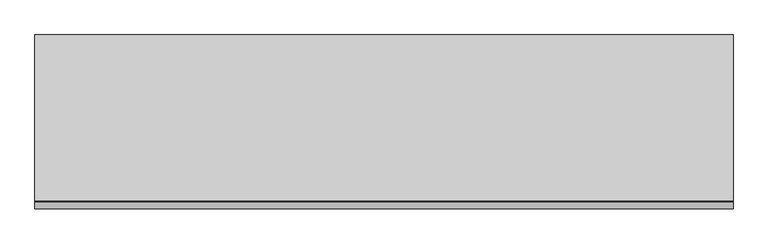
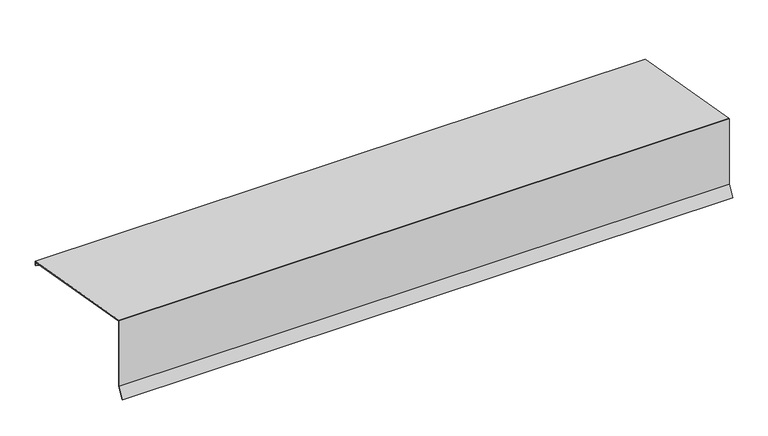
"""IFC4 building model written with IfcOpenShell, lengths in millimetres: proxy geometry, H20.F20.003-F-REMATES TEJA-Troquelado Sobre Pared : Troquelado sobre Pared Teja."""

from ifc_helpers import new_model, si_unit, point, frame, origin, place, context, project, spatial, ellipse_curve, trimmed, source, transform, mapped, element, save
from ifc_brep_helpers import plane_surface, extruded_surface, advanced_brep


def generic_models_d8b17708(model_context):
    return source(origin(), model_context, "Body", "AdvancedBrep", [
        advanced_brep(
        [(98.0, 0.0, 0.0), (1100.0, 0.0, 0.0), (1100.0, 238.19086, -41.9994752), (98.0, 238.19086, -41.9994752), (154.6321739, 238.1879411, -87.8229652), (147.7180237, 238.1881905, -83.9076084), (98.0, 238.1904216, -48.8823218), (1100.0, 238.190394, -49.3151787), (1018.9019763, 238.1881905, -83.9076084), (1011.9878261, 238.1879411, -87.8229652), (987.9321739, 238.1879411, -87.8229652), (981.0180237, 238.1881905, -83.9076084), (852.2419763, 238.1881905, -83.9076084), (845.3278261, 238.1879411, -87.8229652), (821.2721739, 238.1879411, -87.8229652), (814.3580237, 238.1881905, -83.9076084), (685.5819763, 238.1881905, -83.9076084), (678.6678261, 238.1879411, -87.8229652), (654.6121739, 238.1879411, -87.8229652), (647.6980237, 238.1881905, -83.9076084), (518.9219763, 238.1881905, -83.9076084), (512.0078261, 238.1879411, -87.8229652), (487.9521739, 238.1879411, -87.8229652), (481.0380237, 238.1881905, -83.9076084), (352.2619763, 238.1881905, -83.9076084), (345.3478261, 238.1879411, -87.8229652), (321.2921739, 238.1879411, -87.8229652), (314.3780237, 238.1881905, -83.9076084), (185.6019763, 238.1881905, -83.9076084), (178.6878261, 238.1879411, -87.8229652), (178.6878261, 236.5879411, -87.8228633), (154.6321739, 236.5879411, -87.8228633), (345.3478261, 236.5879411, -87.8228633), (321.2921739, 236.5879411, -87.8228633), (512.0078261, 236.5879411, -87.8228633), (487.9521739, 236.5879411, -87.8228633), (678.6678261, 236.5879411, -87.8228633), (654.6121739, 236.5879411, -87.8228633), (845.3278261, 236.5879411, -87.8228633), (821.2721739, 236.5879411, -87.8228633), (1011.9878261, 236.5879411, -87.8228633), (987.9321739, 236.5879411, -87.8228633), (185.6019763, 236.5881905, -83.9075064), (314.3780237, 236.5881905, -83.9075064), (352.2619763, 236.5881905, -83.9075064), (481.0380237, 236.5881905, -83.9075064), (518.9219763, 236.5881905, -83.9075064), (647.6980237, 236.5881905, -83.9075064), (685.5819763, 236.5881905, -83.9075064), (814.3580237, 236.5881905, -83.9075064), (852.2419763, 236.5881905, -83.9075064), (981.0180237, 236.5881905, -83.9075064), (1018.9019763, 236.5881905, -83.9075064), (1100.0, 236.590394, -49.3150768), (1100.0, 236.5907745, -43.3420195), (98.0, 236.5907745, -43.3420195), (98.0, 236.5904216, -48.8822199), (147.7180237, 236.5881905, -83.9075064), (1100.0, 0.101317, -1.6425475), (98.0, 0.101317, -1.6425475), (1100.0, 0.101317, -114.7969819), (98.0, 0.101317, -114.7969819), (1100.0, -9.954634, -132.0850659), (98.0, -9.954634, -132.0850659), (1100.0, -11.6062164, -131.1243909), (98.0, -11.6062164, -131.1243909), (1100.0, -1.5576942, -113.8490784), (98.0, -1.5576942, -113.8490784), (1100.0, -1.5576942, 0.0), (98.0, -1.5576942, 0.0)],
        [
            (0, 1),
            (1, 2),
            (2, 3),
            (3, 0),
            (4, 5, ellipse_curve(frame((154.6321739, 238.1884429, -79.9445032), z_axis=(0.0, 0.9999999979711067, -6.37007579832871e-05), x_axis=(1.0, 0.0, 0.0)), 8.0, 7.878462)),
            (5, 6, ellipse_curve(frame((83.33, 238.1858395, -120.8140249), z_axis=(0.0, -0.9999999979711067, 6.37007579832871e-05), x_axis=(1.0, 0.0, 0.0)), 74.5, 73.3681776)),
            (6, 3),
            (2, 7),
            (7, 8, ellipse_curve(frame((1083.29, 238.1858395, -120.8140249), z_axis=(0.0, -0.9999999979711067, 6.37007579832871e-05), x_axis=(1.0, 0.0, 0.0)), 74.5, 73.3681776)),
            (8, 9, ellipse_curve(frame((1011.9878261, 238.1884429, -79.9445032), z_axis=(0.0, 0.9999999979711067, -6.37007579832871e-05), x_axis=(1.0, 0.0, 0.0)), 8.0, 7.878462)),
            (9, 10),
            (10, 11, ellipse_curve(frame((987.9321739, 238.1884429, -79.9445032), z_axis=(0.0, 0.9999999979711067, -6.37007579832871e-05), x_axis=(1.0, 0.0, 0.0)), 8.0, 7.878462)),
            (11, 12, ellipse_curve(frame((916.63, 238.1858395, -120.8140249), z_axis=(0.0, -0.9999999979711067, 6.37007579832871e-05), x_axis=(1.0, 0.0, 0.0)), 74.5, 73.3681776)),
            (12, 13, ellipse_curve(frame((845.3278261, 238.1884429, -79.9445032), z_axis=(0.0, 0.9999999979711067, -6.37007579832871e-05), x_axis=(1.0, 0.0, 0.0)), 8.0, 7.878462)),
            (13, 14),
            (14, 15, ellipse_curve(frame((821.2721739, 238.1884429, -79.9445032), z_axis=(0.0, 0.9999999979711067, -6.37007579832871e-05), x_axis=(1.0, 0.0, 0.0)), 8.0, 7.878462)),
            (15, 16, ellipse_curve(frame((749.97, 238.1858395, -120.8140249), z_axis=(0.0, -0.9999999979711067, 6.37007579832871e-05), x_axis=(1.0, 0.0, 0.0)), 74.5, 73.3681776)),
            (16, 17, ellipse_curve(frame((678.6678261, 238.1884429, -79.9445032), z_axis=(0.0, 0.9999999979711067, -6.37007579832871e-05), x_axis=(1.0, 0.0, 0.0)), 8.0, 7.878462)),
            (17, 18),
            (18, 19, ellipse_curve(frame((654.6121739, 238.1884429, -79.9445032), z_axis=(0.0, 0.9999999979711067, -6.37007579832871e-05), x_axis=(1.0, 0.0, 0.0)), 8.0, 7.878462)),
            (19, 20, ellipse_curve(frame((583.31, 238.1858395, -120.8140249), z_axis=(0.0, -0.9999999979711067, 6.37007579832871e-05), x_axis=(1.0, 0.0, 0.0)), 74.5, 73.3681776)),
            (20, 21, ellipse_curve(frame((512.0078261, 238.1884429, -79.9445032), z_axis=(0.0, 0.9999999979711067, -6.37007579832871e-05), x_axis=(1.0, 0.0, 0.0)), 8.0, 7.878462)),
            (21, 22),
            (22, 23, ellipse_curve(frame((487.9521739, 238.1884429, -79.9445032), z_axis=(0.0, 0.9999999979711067, -6.37007579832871e-05), x_axis=(1.0, 0.0, 0.0)), 8.0, 7.878462)),
            (23, 24, ellipse_curve(frame((416.65, 238.1858395, -120.8140249), z_axis=(0.0, -0.9999999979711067, 6.37007579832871e-05), x_axis=(1.0, 0.0, 0.0)), 74.5, 73.3681776)),
            (24, 25, ellipse_curve(frame((345.3478261, 238.1884429, -79.9445032), z_axis=(0.0, 0.9999999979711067, -6.37007579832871e-05), x_axis=(1.0, 0.0, 0.0)), 8.0, 7.878462)),
            (25, 26),
            (26, 27, ellipse_curve(frame((321.2921739, 238.1884429, -79.9445032), z_axis=(0.0, 0.9999999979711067, -6.37007579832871e-05), x_axis=(1.0, 0.0, 0.0)), 8.0, 7.878462)),
            (27, 28, ellipse_curve(frame((249.99, 238.1858395, -120.8140249), z_axis=(0.0, -0.9999999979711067, 6.37007579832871e-05), x_axis=(1.0, 0.0, 0.0)), 74.5, 73.3681776)),
            (28, 29, ellipse_curve(frame((178.6878261, 238.1884429, -79.9445032), z_axis=(0.0, 0.9999999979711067, -6.37007579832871e-05), x_axis=(1.0, 0.0, 0.0)), 8.0, 7.878462)),
            (29, 4),
            (29, 30),
            (30, 31),
            (31, 4),
            (25, 32),
            (32, 33),
            (33, 26),
            (21, 34),
            (34, 35),
            (35, 22),
            (17, 36),
            (36, 37),
            (37, 18),
            (13, 38),
            (38, 39),
            (39, 14),
            (9, 40),
            (40, 41),
            (41, 10),
            (30, 42, ellipse_curve(frame((178.6878261, 236.5884429, -79.9444013), z_axis=(0.0, -0.9999999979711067, 6.37007579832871e-05), x_axis=(1.0, 0.0, 0.0)), 8.0, 7.878462)),
            (42, 43, ellipse_curve(frame((249.99, 236.5858395, -120.813923), z_axis=(0.0, 0.9999999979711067, -6.37007579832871e-05), x_axis=(1.0, 0.0, 0.0)), 74.5, 73.3681776)),
            (43, 33, ellipse_curve(frame((321.2921739, 236.5884429, -79.9444013), z_axis=(0.0, -0.9999999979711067, 6.37007579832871e-05), x_axis=(1.0, 0.0, 0.0)), 8.0, 7.878462)),
            (32, 44, ellipse_curve(frame((345.3478261, 236.5884429, -79.9444013), z_axis=(0.0, -0.9999999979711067, 6.37007579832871e-05), x_axis=(1.0, 0.0, 0.0)), 8.0, 7.878462)),
            (44, 45, ellipse_curve(frame((416.65, 236.5858395, -120.813923), z_axis=(0.0, 0.9999999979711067, -6.37007579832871e-05), x_axis=(1.0, 0.0, 0.0)), 74.5, 73.3681776)),
            (45, 35, ellipse_curve(frame((487.9521739, 236.5884429, -79.9444013), z_axis=(0.0, -0.9999999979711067, 6.37007579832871e-05), x_axis=(1.0, 0.0, 0.0)), 8.0, 7.878462)),
            (34, 46, ellipse_curve(frame((512.0078261, 236.5884429, -79.9444013), z_axis=(0.0, -0.9999999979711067, 6.37007579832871e-05), x_axis=(1.0, 0.0, 0.0)), 8.0, 7.878462)),
            (46, 47, ellipse_curve(frame((583.31, 236.5858395, -120.813923), z_axis=(0.0, 0.9999999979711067, -6.37007579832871e-05), x_axis=(1.0, 0.0, 0.0)), 74.5, 73.3681776)),
            (47, 37, ellipse_curve(frame((654.6121739, 236.5884429, -79.9444013), z_axis=(0.0, -0.9999999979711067, 6.37007579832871e-05), x_axis=(1.0, 0.0, 0.0)), 8.0, 7.878462)),
            (36, 48, ellipse_curve(frame((678.6678261, 236.5884429, -79.9444013), z_axis=(0.0, -0.9999999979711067, 6.37007579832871e-05), x_axis=(1.0, 0.0, 0.0)), 8.0, 7.878462)),
            (48, 49, ellipse_curve(frame((749.97, 236.5858395, -120.813923), z_axis=(0.0, 0.9999999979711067, -6.37007579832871e-05), x_axis=(1.0, 0.0, 0.0)), 74.5, 73.3681776)),
            (49, 39, ellipse_curve(frame((821.2721739, 236.5884429, -79.9444013), z_axis=(0.0, -0.9999999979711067, 6.37007579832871e-05), x_axis=(1.0, 0.0, 0.0)), 8.0, 7.878462)),
            (38, 50, ellipse_curve(frame((845.3278261, 236.5884429, -79.9444013), z_axis=(0.0, -0.9999999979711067, 6.37007579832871e-05), x_axis=(1.0, 0.0, 0.0)), 8.0, 7.878462)),
            (50, 51, ellipse_curve(frame((916.63, 236.5858395, -120.813923), z_axis=(0.0, 0.9999999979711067, -6.37007579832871e-05), x_axis=(1.0, 0.0, 0.0)), 74.5, 73.3681776)),
            (51, 41, ellipse_curve(frame((987.9321739, 236.5884429, -79.9444013), z_axis=(0.0, -0.9999999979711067, 6.37007579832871e-05), x_axis=(1.0, 0.0, 0.0)), 8.0, 7.878462)),
            (40, 52, ellipse_curve(frame((1011.9878261, 236.5884429, -79.9444013), z_axis=(0.0, -0.9999999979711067, 6.37007579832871e-05), x_axis=(1.0, 0.0, 0.0)), 8.0, 7.878462)),
            (52, 53, ellipse_curve(frame((1083.29, 236.5858395, -120.813923), z_axis=(0.0, 0.9999999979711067, -6.37007579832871e-05), x_axis=(1.0, 0.0, 0.0)), 74.5, 73.3681776)),
            (53, 54),
            (54, 55),
            (55, 56),
            (56, 57, ellipse_curve(frame((83.33, 236.5858395, -120.813923), z_axis=(0.0, 0.9999999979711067, -6.37007579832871e-05), x_axis=(1.0, 0.0, 0.0)), 74.5, 73.3681776)),
            (57, 31, ellipse_curve(frame((154.6321739, 236.5884429, -79.9444013), z_axis=(0.0, -0.9999999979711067, 6.37007579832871e-05), x_axis=(1.0, 0.0, 0.0)), 8.0, 7.878462)),
            (56, 6),
            (5, 57),
            (28, 42),
            (27, 43),
            (24, 44),
            (23, 45),
            (20, 46),
            (19, 47),
            (16, 48),
            (15, 49),
            (12, 50),
            (11, 51),
            (8, 52),
            (7, 53),
            (54, 58),
            (58, 59),
            (59, 55),
            (58, 60),
            (60, 61),
            (61, 59),
            (60, 62),
            (62, 63),
            (63, 61),
            (62, 64),
            (64, 65),
            (65, 63),
            (64, 66),
            (66, 67),
            (67, 65),
            (66, 68),
            (68, 69),
            (69, 67),
            (68, 1),
            (0, 69),
        ],
        [
            plane_surface(frame((2500.0, 0.0, 0.0), z_axis=(0.0, 0.17364817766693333, 0.9848077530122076), x_axis=(-1.0, 0.0, 0.0))),
            plane_surface(frame((2500.0, 238.19086, -41.9994752), z_axis=(0.0, 0.9999999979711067, -6.37007579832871e-05), x_axis=(-1.0, 0.0, 0.0))),
            plane_surface(frame((2500.0, 238.1879411, -87.8229652), z_axis=(0.0, -6.370075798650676e-05, -0.9999999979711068), x_axis=(-1.0, 0.0, 0.0))),
            plane_surface(frame((2500.0, 236.5879411, -87.8228633), z_axis=(0.0, -0.9999999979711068, 6.370075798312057e-05), x_axis=(-1.0, 0.0, 0.0))),
            extruded_surface(trimmed(ellipse_curve(frame((83.33, 240.1858395, -120.8141523), z_axis=(0.0, 0.9999999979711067, -6.37007579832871e-05), x_axis=(1.0, 0.0, 0.0)), 74.5, 73.3681776), [point((18.9419763, 240.1881905, -83.9077358))], [point((147.7180237, 240.1881905, -83.9077358))], True, "CARTESIAN"), (0.0, -2.0, 0.00012739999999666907), 2.0000000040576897),
            extruded_surface(trimmed(ellipse_curve(frame((154.6321739, 240.1884429, -79.9446306), z_axis=(0.0, -0.9999999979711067, 6.37007579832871e-05), x_axis=(1.0, 0.0, 0.0)), 8.0, 7.878462), [point((147.7180237, 240.1881905, -83.9077358))], [point((154.6321739, 240.1879411, -87.8230926))], True, "CARTESIAN"), (0.0, -2.0, 0.00012739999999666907), 2.0000000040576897),
            extruded_surface(trimmed(ellipse_curve(frame((178.6878261, 240.1884429, -79.9446306), z_axis=(0.0, -0.9999999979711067, 6.37007579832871e-05), x_axis=(1.0, 0.0, 0.0)), 8.0, 7.878462), [point((178.6878261, 240.1879411, -87.8230926))], [point((185.6019763, 240.1881905, -83.9077358))], True, "CARTESIAN"), (0.0, -2.0, 0.00012739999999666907), 2.0000000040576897),
            extruded_surface(trimmed(ellipse_curve(frame((249.99, 240.1858395, -120.8141523), z_axis=(0.0, 0.9999999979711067, -6.37007579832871e-05), x_axis=(1.0, 0.0, 0.0)), 74.5, 73.3681776), [point((185.6019763, 240.1881905, -83.9077358))], [point((314.3780237, 240.1881905, -83.9077358))], True, "CARTESIAN"), (0.0, -2.0, 0.00012739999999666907), 2.0000000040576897),
            extruded_surface(trimmed(ellipse_curve(frame((321.2921739, 240.1884429, -79.9446306), z_axis=(0.0, -0.9999999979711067, 6.37007579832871e-05), x_axis=(1.0, 0.0, 0.0)), 8.0, 7.878462), [point((314.3780237, 240.1881905, -83.9077358))], [point((321.2921739, 240.1879411, -87.8230926))], True, "CARTESIAN"), (0.0, -2.0, 0.00012739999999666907), 2.0000000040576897),
            extruded_surface(trimmed(ellipse_curve(frame((345.3478261, 240.1884429, -79.9446306), z_axis=(0.0, -0.9999999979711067, 6.37007579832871e-05), x_axis=(1.0, 0.0, 0.0)), 8.0, 7.878462), [point((345.3478261, 240.1879411, -87.8230926))], [point((352.2619763, 240.1881905, -83.9077358))], True, "CARTESIAN"), (0.0, -2.0, 0.00012739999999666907), 2.0000000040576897),
            extruded_surface(trimmed(ellipse_curve(frame((416.65, 240.1858395, -120.8141523), z_axis=(0.0, 0.9999999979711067, -6.37007579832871e-05), x_axis=(1.0, 0.0, 0.0)), 74.5, 73.3681776), [point((352.2619763, 240.1881905, -83.9077358))], [point((481.0380237, 240.1881905, -83.9077358))], True, "CARTESIAN"), (0.0, -2.0, 0.00012739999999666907), 2.0000000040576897),
            extruded_surface(trimmed(ellipse_curve(frame((487.9521739, 240.1884429, -79.9446306), z_axis=(0.0, -0.9999999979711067, 6.37007579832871e-05), x_axis=(1.0, 0.0, 0.0)), 8.0, 7.878462), [point((481.0380237, 240.1881905, -83.9077358))], [point((487.9521739, 240.1879411, -87.8230926))], True, "CARTESIAN"), (0.0, -2.0, 0.00012739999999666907), 2.0000000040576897),
            extruded_surface(trimmed(ellipse_curve(frame((512.0078261, 240.1884429, -79.9446306), z_axis=(0.0, -0.9999999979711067, 6.37007579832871e-05), x_axis=(1.0, 0.0, 0.0)), 8.0, 7.878462), [point((512.0078261, 240.1879411, -87.8230926))], [point((518.9219763, 240.1881905, -83.9077358))], True, "CARTESIAN"), (0.0, -2.0, 0.00012739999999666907), 2.0000000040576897),
            extruded_surface(trimmed(ellipse_curve(frame((583.31, 240.1858395, -120.8141523), z_axis=(0.0, 0.9999999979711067, -6.37007579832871e-05), x_axis=(1.0, 0.0, 0.0)), 74.5, 73.3681776), [point((518.9219763, 240.1881905, -83.9077358))], [point((647.6980237, 240.1881905, -83.9077358))], True, "CARTESIAN"), (0.0, -2.0, 0.00012739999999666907), 2.0000000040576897),
            extruded_surface(trimmed(ellipse_curve(frame((654.6121739, 240.1884429, -79.9446306), z_axis=(0.0, -0.9999999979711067, 6.37007579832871e-05), x_axis=(1.0, 0.0, 0.0)), 8.0, 7.878462), [point((647.6980237, 240.1881905, -83.9077358))], [point((654.6121739, 240.1879411, -87.8230926))], True, "CARTESIAN"), (0.0, -2.0, 0.00012739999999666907), 2.0000000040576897),
            extruded_surface(trimmed(ellipse_curve(frame((678.6678261, 240.1884429, -79.9446306), z_axis=(0.0, -0.9999999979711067, 6.37007579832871e-05), x_axis=(1.0, 0.0, 0.0)), 8.0, 7.878462), [point((678.6678261, 240.1879411, -87.8230926))], [point((685.5819763, 240.1881905, -83.9077358))], True, "CARTESIAN"), (0.0, -2.0, 0.00012739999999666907), 2.0000000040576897),
            extruded_surface(trimmed(ellipse_curve(frame((749.97, 240.1858395, -120.8141523), z_axis=(0.0, 0.9999999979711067, -6.37007579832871e-05), x_axis=(1.0, 0.0, 0.0)), 74.5, 73.3681776), [point((685.5819763, 240.1881905, -83.9077358))], [point((814.3580237, 240.1881905, -83.9077358))], True, "CARTESIAN"), (0.0, -2.0, 0.00012739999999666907), 2.0000000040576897),
            extruded_surface(trimmed(ellipse_curve(frame((821.2721739, 240.1884429, -79.9446306), z_axis=(0.0, -0.9999999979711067, 6.37007579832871e-05), x_axis=(1.0, 0.0, 0.0)), 8.0, 7.878462), [point((814.3580237, 240.1881905, -83.9077358))], [point((821.2721739, 240.1879411, -87.8230926))], True, "CARTESIAN"), (0.0, -2.0, 0.00012739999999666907), 2.0000000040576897),
            extruded_surface(trimmed(ellipse_curve(frame((845.3278261, 240.1884429, -79.9446306), z_axis=(0.0, -0.9999999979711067, 6.37007579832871e-05), x_axis=(1.0, 0.0, 0.0)), 8.0, 7.878462), [point((845.3278261, 240.1879411, -87.8230926))], [point((852.2419763, 240.1881905, -83.9077358))], True, "CARTESIAN"), (0.0, -2.0, 0.00012739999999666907), 2.0000000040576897),
            extruded_surface(trimmed(ellipse_curve(frame((916.63, 240.1858395, -120.8141523), z_axis=(0.0, 0.9999999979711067, -6.37007579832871e-05), x_axis=(1.0, 0.0, 0.0)), 74.5, 73.3681776), [point((852.2419763, 240.1881905, -83.9077358))], [point((981.0180237, 240.1881905, -83.9077358))], True, "CARTESIAN"), (0.0, -2.0, 0.00012739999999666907), 2.0000000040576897),
            extruded_surface(trimmed(ellipse_curve(frame((987.9321739, 240.1884429, -79.9446306), z_axis=(0.0, -0.9999999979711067, 6.37007579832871e-05), x_axis=(1.0, 0.0, 0.0)), 8.0, 7.878462), [point((981.0180237, 240.1881905, -83.9077358))], [point((987.9321739, 240.1879411, -87.8230926))], True, "CARTESIAN"), (0.0, -2.0, 0.00012739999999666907), 2.0000000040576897),
            extruded_surface(trimmed(ellipse_curve(frame((1011.9878261, 240.1884429, -79.9446306), z_axis=(0.0, -0.9999999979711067, 6.37007579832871e-05), x_axis=(1.0, 0.0, 0.0)), 8.0, 7.878462), [point((1011.9878261, 240.1879411, -87.8230926))], [point((1018.9019763, 240.1881905, -83.9077358))], True, "CARTESIAN"), (0.0, -2.0, 0.00012739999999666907), 2.0000000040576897),
            extruded_surface(trimmed(ellipse_curve(frame((1083.29, 240.1858395, -120.8141523), z_axis=(0.0, 0.9999999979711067, -6.37007579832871e-05), x_axis=(1.0, 0.0, 0.0)), 74.5, 73.3681776), [point((1018.9019763, 240.1881905, -83.9077358))], [point((1147.6780237, 240.1881905, -83.9077358))], True, "CARTESIAN"), (0.0, -2.0, 0.00012739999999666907), 2.0000000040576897),
            plane_surface(frame((2500.0, 236.5907745, -43.3420195), z_axis=(0.0, -0.17364817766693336, -0.9848077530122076), x_axis=(-1.0, 0.0, 0.0))),
            plane_surface(frame((2500.0, 0.101317, -1.6425475), z_axis=(0.0, 1.0, 0.0), x_axis=(-1.0, 0.0, 0.0))),
            plane_surface(frame((2500.0, 0.101317, -114.7969819), z_axis=(0.0, 0.8644042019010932, -0.5027975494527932), x_axis=(-1.0, 0.0, 0.0))),
            plane_surface(frame((2500.0, -9.954634, -132.0850659), z_axis=(0.0, -0.50279754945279, -0.8644042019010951), x_axis=(-1.0, 0.0, 0.0))),
            plane_surface(frame((2500.0, -11.6062164, -131.1243909), z_axis=(0.0, -0.8644042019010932, 0.5027975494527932), x_axis=(-1.0, 0.0, 0.0))),
            plane_surface(frame((2500.0, -1.5576942, -113.8490784), z_axis=(0.0, -1.0, 0.0), x_axis=(-1.0, 0.0, 0.0))),
            plane_surface(frame((2500.0, -1.5576942, 0.0), z_axis=(0.0, 0.0, 1.0), x_axis=(-1.0, 0.0, 0.0))),
            plane_surface(frame((98.0, 379.1513497, 250.0), z_axis=(-1.0, 0.0, 0.0), x_axis=(0.0, 0.0, -1.0))),
            plane_surface(frame((1100.0, -196.3809555, 250.0), z_axis=(1.0, 0.0, 0.0), x_axis=(0.0, 0.0, -1.0))),
        ],
        [
            (0, [[1, 2, 3, 4]]),
            (1, [[5, 6, 7, -3, 8, 9, 10, 11, 12, 13, 14, 15, 16, 17, 18, 19, 20, 21, 22, 23, 24, 25, 26, 27, 28, 29, 30, 31]]),
            (2, [[32, 33, 34, -31]]),
            (2, [[35, 36, 37, -27]]),
            (2, [[38, 39, 40, -23]]),
            (2, [[41, 42, 43, -19]]),
            (2, [[44, 45, 46, -15]]),
            (2, [[47, 48, 49, -11]]),
            (3, [[50, 51, 52, -36, 53, 54, 55, -39, 56, 57, 58, -42, 59, 60, 61, -45, 62, 63, 64, -48, 65, 66, 67, 68, 69, 70, 71, -33]]),
            (4, [[-70, 72, -6, 73]]),
            (5, [[-5, -34, -71, -73]]),
            (6, [[-50, -32, -30, 74]]),
            (7, [[-29, 75, -51, -74]]),
            (8, [[-28, -37, -52, -75]]),
            (9, [[-53, -35, -26, 76]]),
            (10, [[-25, 77, -54, -76]]),
            (11, [[-24, -40, -55, -77]]),
            (12, [[-56, -38, -22, 78]]),
            (13, [[-21, 79, -57, -78]]),
            (14, [[-20, -43, -58, -79]]),
            (15, [[-59, -41, -18, 80]]),
            (16, [[-17, 81, -60, -80]]),
            (17, [[-16, -46, -61, -81]]),
            (18, [[-62, -44, -14, 82]]),
            (19, [[-13, 83, -63, -82]]),
            (20, [[-12, -49, -64, -83]]),
            (21, [[-65, -47, -10, 84]]),
            (22, [[-9, 85, -66, -84]]),
            (23, [[-68, 86, 87, 88]]),
            (24, [[-87, 89, 90, 91]]),
            (25, [[-90, 92, 93, 94]]),
            (26, [[-93, 95, 96, 97]]),
            (27, [[-96, 98, 99, 100]]),
            (28, [[-99, 101, 102, 103]]),
            (29, [[-102, 104, -1, 105]]),
            (30, [[-7, -72, -69, -88, -91, -94, -97, -100, -103, -105, -4]]),
            (31, [[-104, -101, -98, -95, -92, -89, -86, -67, -85, -8, -2]]),
        ],
    ),
    ])


if __name__ == "__main__":
    model = new_model("IFC4")
    model_context = context("Model", 3, world=origin())
    ifc_project = project(units=[si_unit("LENGTHUNIT", "METRE", prefix="MILLI")], contexts=[model_context])
    site = spatial("IfcSite", under=ifc_project)
    building = spatial("IfcBuilding", under=site)
    placement = place(None, origin())
    generic_models_shape = generic_models_d8b17708(model_context)
    element("IfcBuildingElementProxy", 1, Name="H20.F20.003-F-REMATES TEJA-Troquelado Sobre Pared : Troquelado sobre Pared Teja", ObjectType="H20.F20.003-F-REMATES TEJA-Troquelado Sobre Pared : Troquelado sobre Pared Teja", at=placement, inside=building, context=model_context, shape_type="MappedRepresentation", body=[
        mapped(generic_models_shape, transform((0.0, 0.0, 0.0), x_axis=(1.0, 0.0, 0.0), y_axis=(0.0, 1.0, 0.0), z_axis=(0.0, 0.0, 1.0))),
    ])
    save(model, "model.ifc")
